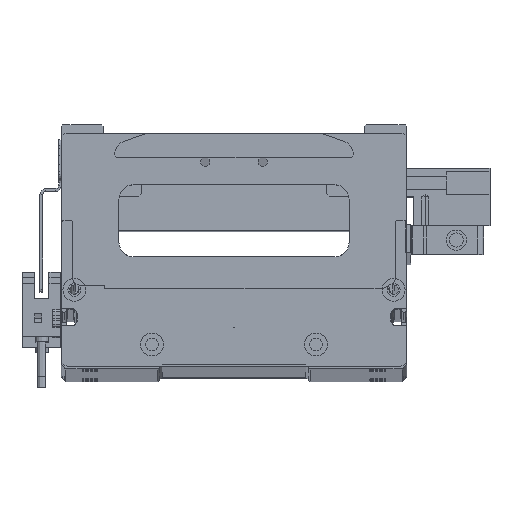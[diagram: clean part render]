
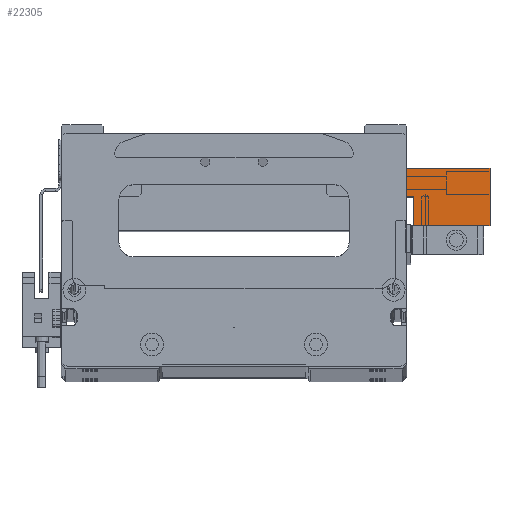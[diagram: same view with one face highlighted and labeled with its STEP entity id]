
A CAD part, top view. The second image highlights one B-rep face of the part: STEP entity #22305.
In plain terms, the highlighted planar face has unit normal (0, 0, 1) as drawn and (-1, 0, 0) by its records, which use the part's own axes.
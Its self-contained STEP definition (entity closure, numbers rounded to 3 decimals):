
#443 = ORIENTED_EDGE ( 'NONE', *, *, #10576, .F. ) ;
#840 = DIRECTION ( 'NONE',  ( 0., -1., 0. ) ) ;
#1104 = VECTOR ( 'NONE', #32439, 1000. ) ;
#1307 = CARTESIAN_POINT ( 'NONE',  ( -130.52, 37.563, 10. ) ) ;
#1644 = DIRECTION ( 'NONE',  ( 0., 0., 1. ) ) ;
#1875 = LINE ( 'NONE', #10897, #29619 ) ;
#2046 = ORIENTED_EDGE ( 'NONE', *, *, #31247, .T. ) ;
#3072 = LINE ( 'NONE', #24882, #1104 ) ;
#3868 = VERTEX_POINT ( 'NONE', #17998 ) ;
#6018 = ORIENTED_EDGE ( 'NONE', *, *, #26628, .F. ) ;
#6503 = CARTESIAN_POINT ( 'NONE',  ( -130.52, 64.063, 20. ) ) ;
#6573 = VECTOR ( 'NONE', #14592, 1000. ) ;
#7614 = VERTEX_POINT ( 'NONE', #26264 ) ;
#8183 = CARTESIAN_POINT ( 'NONE',  ( -130.52, 64.063, 0. ) ) ;
#9117 = PLANE ( 'NONE',  #21137 ) ;
#10513 = VECTOR ( 'NONE', #840, 1000. ) ;
#10576 = EDGE_CURVE ( 'NONE', #3868, #18153, #3072, .T. ) ;
#10727 = CARTESIAN_POINT ( 'NONE',  ( -130.52, 35.063, 0. ) ) ;
#10897 = CARTESIAN_POINT ( 'NONE',  ( -130.52, 64.063, 20. ) ) ;
#11377 = CARTESIAN_POINT ( 'NONE',  ( -130.52, 64.063, 0. ) ) ;
#11645 = DIRECTION ( 'NONE',  ( 0., 0., -1. ) ) ;
#12325 = VERTEX_POINT ( 'NONE', #11377 ) ;
#13850 = CARTESIAN_POINT ( 'NONE',  ( -130.52, 35.063, 10. ) ) ;
#13863 = FACE_OUTER_BOUND ( 'NONE', #20620, .T. ) ;
#14512 = VERTEX_POINT ( 'NONE', #10727 ) ;
#14592 = DIRECTION ( 'NONE',  ( 0., 0., -1. ) ) ;
#16040 = DIRECTION ( 'NONE',  ( 0., -1., 0. ) ) ;
#17091 = ORIENTED_EDGE ( 'NONE', *, *, #21276, .T. ) ;
#17998 = CARTESIAN_POINT ( 'NONE',  ( -130.52, 37.563, 10. ) ) ;
#18153 = VERTEX_POINT ( 'NONE', #13850 ) ;
#20471 = ORIENTED_EDGE ( 'NONE', *, *, #31691, .F. ) ;
#20620 = EDGE_LOOP ( 'NONE', ( #443, #17091, #20471, #23131, #2046, #6018 ) ) ;
#21137 = AXIS2_PLACEMENT_3D ( 'NONE', #6503, #26613, #11645 ) ;
#21276 = EDGE_CURVE ( 'NONE', #3868, #22590, #29923, .T. ) ;
#21685 = VECTOR ( 'NONE', #1644, 1000. ) ;
#21878 = DIRECTION ( 'NONE',  ( 0., 0., -1. ) ) ;
#22305 = ADVANCED_FACE ( 'NONE', ( #13863 ), #9117, .F. ) ;
#22534 = LINE ( 'NONE', #32042, #24470 ) ;
#22590 = VERTEX_POINT ( 'NONE', #30566 ) ;
#23131 = ORIENTED_EDGE ( 'NONE', *, *, #27967, .T. ) ;
#24470 = VECTOR ( 'NONE', #21878, 1000. ) ;
#24719 = CARTESIAN_POINT ( 'NONE',  ( -130.52, 35.063, 20. ) ) ;
#24882 = CARTESIAN_POINT ( 'NONE',  ( -130.52, 35.063, 10. ) ) ;
#26264 = CARTESIAN_POINT ( 'NONE',  ( -130.52, 64.063, 20. ) ) ;
#26613 = DIRECTION ( 'NONE',  ( 1., 0., 0. ) ) ;
#26628 = EDGE_CURVE ( 'NONE', #18153, #14512, #32395, .T. ) ;
#27967 = EDGE_CURVE ( 'NONE', #7614, #12325, #22534, .T. ) ;
#29619 = VECTOR ( 'NONE', #16040, 1000. ) ;
#29923 = LINE ( 'NONE', #1307, #21685 ) ;
#30566 = CARTESIAN_POINT ( 'NONE',  ( -130.52, 37.563, 20. ) ) ;
#31247 = EDGE_CURVE ( 'NONE', #12325, #14512, #32398, .T. ) ;
#31691 = EDGE_CURVE ( 'NONE', #7614, #22590, #1875, .T. ) ;
#32042 = CARTESIAN_POINT ( 'NONE',  ( -130.52, 64.063, 20. ) ) ;
#32395 = LINE ( 'NONE', #24719, #6573 ) ;
#32398 = LINE ( 'NONE', #8183, #10513 ) ;
#32439 = DIRECTION ( 'NONE',  ( 0., -1., 0. ) ) ;
